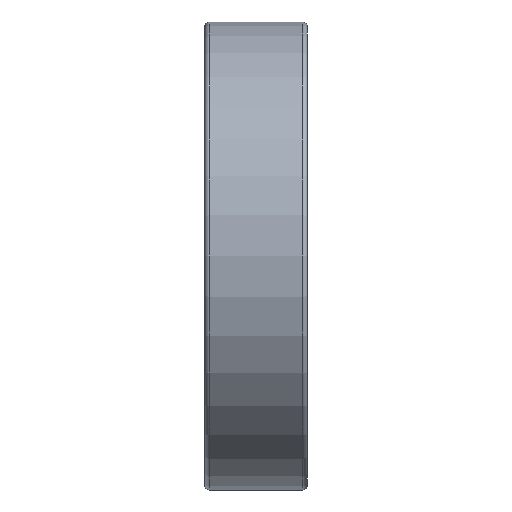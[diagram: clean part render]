
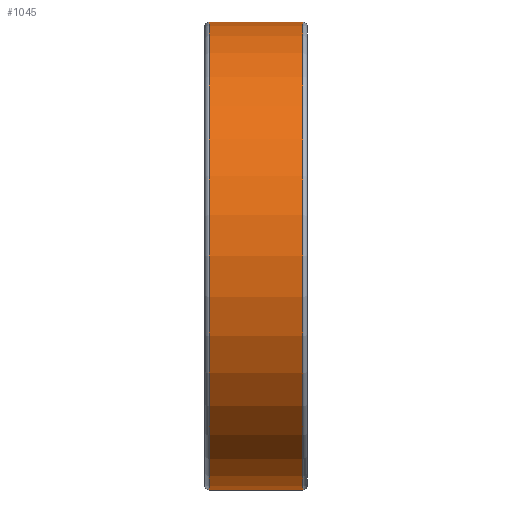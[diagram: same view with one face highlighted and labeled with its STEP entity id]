
A CAD part, front view. The second image highlights one B-rep face of the part: STEP entity #1045.
In plain terms, the highlighted cylindrical face has radius 16 mm (diameter 32 mm), a full revolution.
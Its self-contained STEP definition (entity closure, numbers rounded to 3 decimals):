
#52=LINE('',#2010,#58);
#58=VECTOR('',#1633,16.);
#64=CYLINDRICAL_SURFACE('',#1262,16.);
#164=FACE_OUTER_BOUND('',#247,.T.);
#247=EDGE_LOOP('',(#932,#933,#934,#935,#936,#937));
#384=CIRCLE('',#1257,16.);
#385=CIRCLE('',#1258,16.);
#388=CIRCLE('',#1263,16.);
#389=CIRCLE('',#1264,16.);
#547=VERTEX_POINT('',#1998);
#548=VERTEX_POINT('',#1999);
#550=VERTEX_POINT('',#2007);
#551=VERTEX_POINT('',#2008);
#680=EDGE_CURVE('',#547,#548,#384,.T.);
#681=EDGE_CURVE('',#548,#547,#385,.T.);
#684=EDGE_CURVE('',#550,#551,#388,.T.);
#685=EDGE_CURVE('',#550,#548,#52,.T.);
#686=EDGE_CURVE('',#551,#550,#389,.T.);
#932=ORIENTED_EDGE('',*,*,#684,.F.);
#933=ORIENTED_EDGE('',*,*,#685,.T.);
#934=ORIENTED_EDGE('',*,*,#680,.F.);
#935=ORIENTED_EDGE('',*,*,#681,.F.);
#936=ORIENTED_EDGE('',*,*,#685,.F.);
#937=ORIENTED_EDGE('',*,*,#686,.F.);
#1045=ADVANCED_FACE('',(#164),#64,.T.);
#1257=AXIS2_PLACEMENT_3D('',#2000,#1619,#1620);
#1258=AXIS2_PLACEMENT_3D('',#2001,#1621,#1622);
#1262=AXIS2_PLACEMENT_3D('',#2006,#1629,#1630);
#1263=AXIS2_PLACEMENT_3D('',#2009,#1631,#1632);
#1264=AXIS2_PLACEMENT_3D('',#2011,#1634,#1635);
#1619=DIRECTION('center_axis',(-1.,0.,0.));
#1620=DIRECTION('ref_axis',(0.,-1.,0.));
#1621=DIRECTION('center_axis',(-1.,0.,0.));
#1622=DIRECTION('ref_axis',(0.,-1.,0.));
#1629=DIRECTION('center_axis',(1.,0.,0.));
#1630=DIRECTION('ref_axis',(0.,1.,0.));
#1631=DIRECTION('center_axis',(1.,0.,0.));
#1632=DIRECTION('ref_axis',(0.,-1.,0.));
#1633=DIRECTION('',(-1.,0.,0.));
#1634=DIRECTION('center_axis',(1.,0.,0.));
#1635=DIRECTION('ref_axis',(0.,-1.,0.));
#1998=CARTESIAN_POINT('',(0.3,0.,16.));
#1999=CARTESIAN_POINT('',(0.3,-16.,0.));
#2000=CARTESIAN_POINT('Origin',(0.3,0.,0.));
#2001=CARTESIAN_POINT('Origin',(0.3,0.,0.));
#2006=CARTESIAN_POINT('Origin',(3.5,0.,0.));
#2007=CARTESIAN_POINT('',(6.7,-16.,0.));
#2008=CARTESIAN_POINT('',(6.7,0.,16.));
#2009=CARTESIAN_POINT('Origin',(6.7,0.,0.));
#2010=CARTESIAN_POINT('',(3.5,-16.,0.));
#2011=CARTESIAN_POINT('Origin',(6.7,0.,0.));
